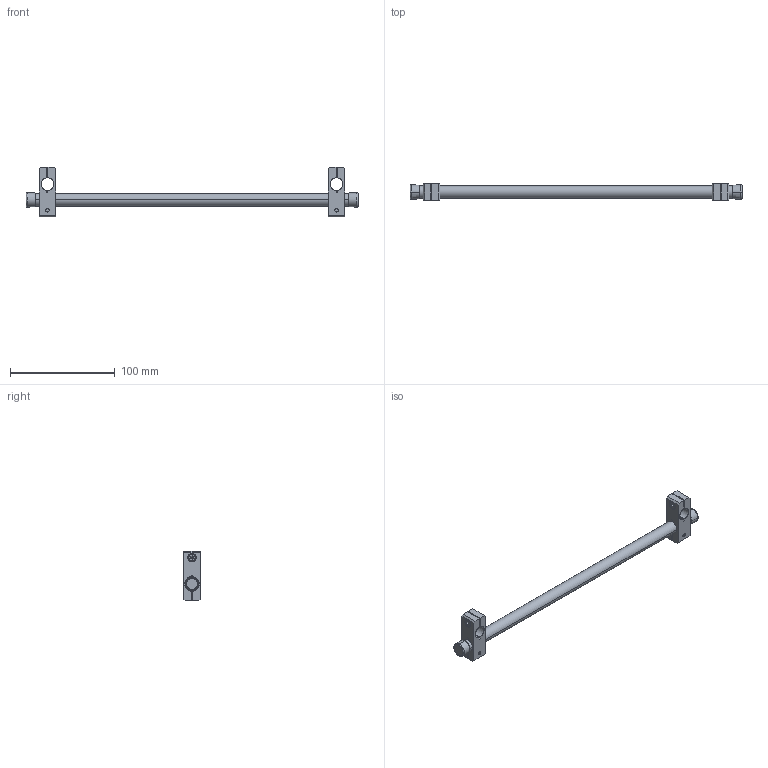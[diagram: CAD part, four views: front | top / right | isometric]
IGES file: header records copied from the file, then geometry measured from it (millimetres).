
Start section: SolidWorks IGES file using analytic representation for surfaces
Global section: file name: E:\EFCKishi\基礎フレーム\EFCK0000\IGES\EFCK-0002.IGS; native system: SolidWorks 2006 by SolidWorks Corporation; preprocessor: SolidWorks 2006 by SolidWorks Corporation; author: CAD58; date: 080913.084856; units: millimetre
Bounding box: 317 x 16 x 47 mm (x, y, z)
Surface area: 36234.2 mm2 (no closed solid volume)
Topology: 0 solids, 0 shells, 206 faces, 2768 edges, 2744 vertices
Faces by surface type: bspline 136, revolution 70
